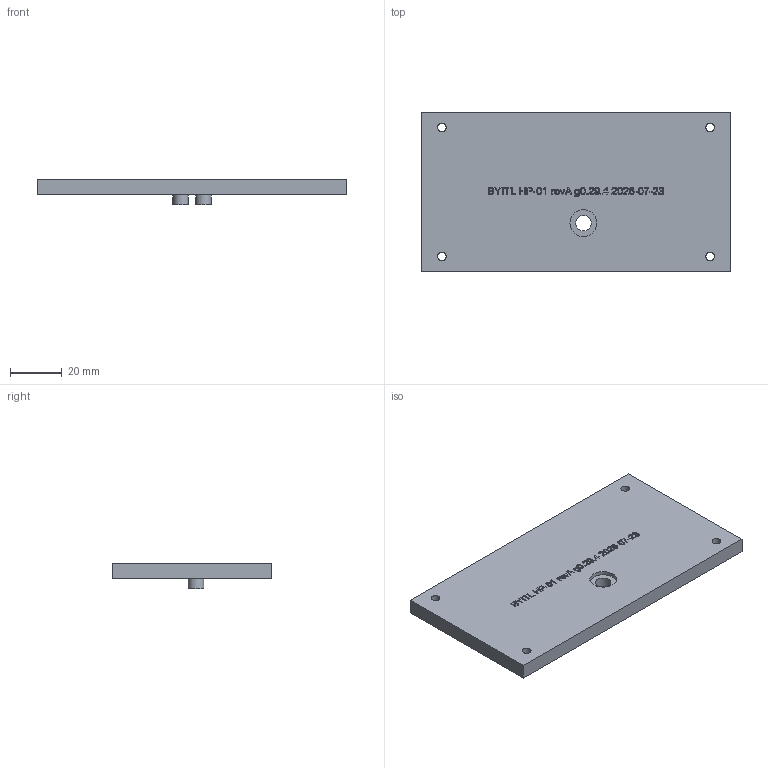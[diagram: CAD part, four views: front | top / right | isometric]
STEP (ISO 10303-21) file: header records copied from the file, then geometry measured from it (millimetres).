
FILE_DESCRIPTION(('Open CASCADE Model'),'2;1');
FILE_NAME('Open CASCADE Shape Model','2026-07-23T15:39:55',('Author'),( 'Open CASCADE'),'Open CASCADE STEP processor 7.9','build123d', 'Unknown');
FILE_SCHEMA(('AUTOMOTIVE_DESIGN { 1 0 10303 214 1 1 1 1 }'));
Length unit declared in the file: millimetre
Products named in the file (1): COMPOUND
Bounding box: 120 x 62 x 9.82 mm (x, y, z)
Volume: 44334.2 mm3; surface area: 17668.2 mm2
Topology: 1 solids, 1 shells, 552 faces, 1503 edges, 1002 vertices
Faces by surface type: extrusion 335, plane 207, cylinder 10
Full cylindrical faces by diameter (mm): 1.7 x2, 3.4 x4, 6 x3, 10.4 x1
Entity records: 43173 total; most frequent: CARTESIAN_POINT 16559, DIRECTION 3321, ORIENTED_EDGE 3006, PCURVE 3006, DEFINITIONAL_REPRESENTATION 3006, VECTOR 2825, LINE 2490, B_SPLINE_CURVE_WITH_KNOTS 2314
